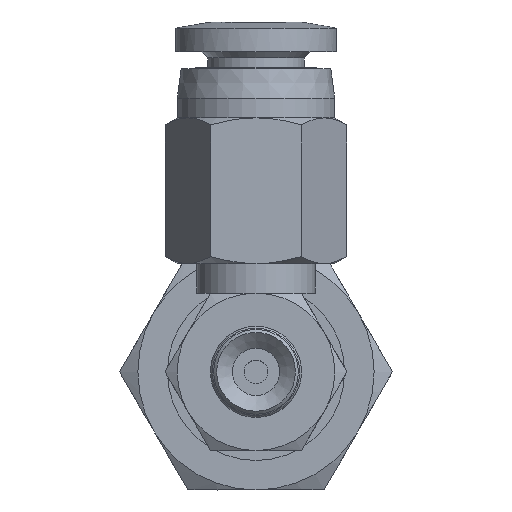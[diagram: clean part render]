
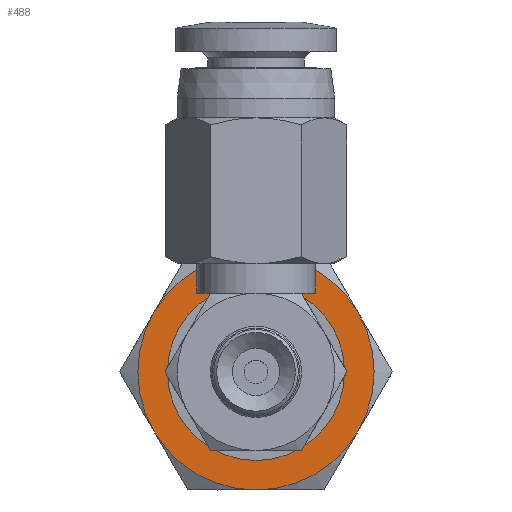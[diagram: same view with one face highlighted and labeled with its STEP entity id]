
A CAD part, front view. The second image highlights one B-rep face of the part: STEP entity #488.
In plain terms, the highlighted planar face has unit normal (0, -1, 0) as drawn and (-1, 0, 0) by its records, which use the part's own axes.
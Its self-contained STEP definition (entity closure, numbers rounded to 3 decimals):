
#488=ADVANCED_FACE('',(#698,#699),#700,.F.);
#698=FACE_BOUND('',#1110,.T.);
#699=FACE_OUTER_BOUND('',#1111,.T.);
#700=PLANE('',#1112);
#1110=EDGE_LOOP('',(#1883));
#1111=EDGE_LOOP('',(#1884,#1885,#1886,#1887,#1888,#1889));
#1112=AXIS2_PLACEMENT_3D('',#1890,#1891,#1892);
#1883=ORIENTED_EDGE('',*,*,#2795,.T.);
#1884=ORIENTED_EDGE('',*,*,#2776,.F.);
#1885=ORIENTED_EDGE('',*,*,#2813,.F.);
#1886=ORIENTED_EDGE('',*,*,#2809,.F.);
#1887=ORIENTED_EDGE('',*,*,#2784,.F.);
#1888=ORIENTED_EDGE('',*,*,#2783,.F.);
#1889=ORIENTED_EDGE('',*,*,#2778,.F.);
#1890=CARTESIAN_POINT('',(0.,0.0,0.0));
#1891=DIRECTION('',(1.0,0.0,0.0));
#1892=DIRECTION('',(0.0,1.0,0.0));
#2776=EDGE_CURVE('',#3095,#3098,#3099,.T.);
#2778=EDGE_CURVE('',#3098,#3101,#3102,.T.);
#2783=EDGE_CURVE('',#3101,#3106,#3110,.T.);
#2784=EDGE_CURVE('',#3106,#3111,#3112,.T.);
#2795=EDGE_CURVE('',#3130,#3130,#3131,.T.);
#2809=EDGE_CURVE('',#3111,#3144,#3151,.T.);
#2813=EDGE_CURVE('',#3144,#3095,#3156,.T.);
#3095=VERTEX_POINT('',#3653);
#3098=VERTEX_POINT('',#3676);
#3099=CIRCLE('',#3677,6.0);
#3101=VERTEX_POINT('',#3689);
#3102=CIRCLE('',#3690,6.0);
#3106=VERTEX_POINT('',#3714);
#3110=CIRCLE('',#3738,6.0);
#3111=VERTEX_POINT('',#3739);
#3112=CIRCLE('',#3740,6.0);
#3130=VERTEX_POINT('',#3798);
#3131=CIRCLE('',#3799,4.0);
#3144=VERTEX_POINT('',#3855);
#3151=CIRCLE('',#3912,6.0);
#3156=CIRCLE('',#3928,6.0);
#3653=CARTESIAN_POINT('',(0.,5.196,-3.0));
#3676=CARTESIAN_POINT('',(0.,5.196,3.0));
#3677=AXIS2_PLACEMENT_3D('',#4795,#4796,#4797);
#3689=CARTESIAN_POINT('',(0.,0.0,6.0));
#3690=AXIS2_PLACEMENT_3D('',#4798,#4799,#4800);
#3714=CARTESIAN_POINT('',(0.,-5.196,3.0));
#3738=AXIS2_PLACEMENT_3D('',#4801,#4802,#4803);
#3739=CARTESIAN_POINT('',(0.,-5.196,-3.0));
#3740=AXIS2_PLACEMENT_3D('',#4804,#4805,#4806);
#3798=CARTESIAN_POINT('',(0.,0.0,-4.0));
#3799=AXIS2_PLACEMENT_3D('',#4825,#4826,#4827);
#3855=CARTESIAN_POINT('',(0.,0.0,-6.0));
#3912=AXIS2_PLACEMENT_3D('',#4834,#4835,#4836);
#3928=AXIS2_PLACEMENT_3D('',#4841,#4842,#4843);
#4795=CARTESIAN_POINT('',(0.,0.0,0.0));
#4796=DIRECTION('',(1.0,0.0,0.0));
#4797=DIRECTION('',(0.0,0.0,-1.0));
#4798=CARTESIAN_POINT('',(0.,0.0,0.0));
#4799=DIRECTION('',(1.0,0.0,0.0));
#4800=DIRECTION('',(0.0,0.0,-1.0));
#4801=CARTESIAN_POINT('',(0.,0.0,0.0));
#4802=DIRECTION('',(1.0,0.0,0.0));
#4803=DIRECTION('',(0.0,0.0,-1.0));
#4804=CARTESIAN_POINT('',(0.,0.0,0.0));
#4805=DIRECTION('',(1.0,0.0,0.0));
#4806=DIRECTION('',(0.0,0.0,-1.0));
#4825=CARTESIAN_POINT('',(0.,0.0,0.0));
#4826=DIRECTION('',(1.0,0.0,0.0));
#4827=DIRECTION('',(0.0,0.0,-1.0));
#4834=CARTESIAN_POINT('',(0.,0.0,0.0));
#4835=DIRECTION('',(1.0,0.0,0.0));
#4836=DIRECTION('',(0.0,0.0,-1.0));
#4841=CARTESIAN_POINT('',(0.,0.0,0.0));
#4842=DIRECTION('',(1.0,0.0,0.0));
#4843=DIRECTION('',(0.0,0.0,-1.0));
